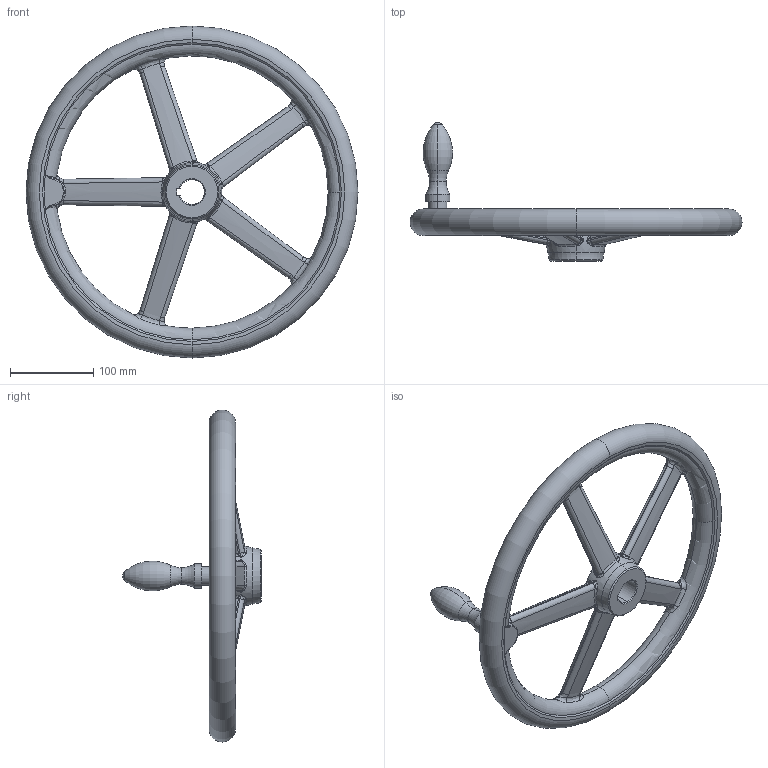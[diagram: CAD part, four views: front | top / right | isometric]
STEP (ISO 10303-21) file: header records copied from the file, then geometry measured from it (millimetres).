
FILE_DESCRIPTION (( 'STEP AP203' ), '1' );
FILE_NAME ('din950_d3_400x30.step', '2010-03-23T10:11:08', ( '_' ), ( '_' ), 'SwSTEP 2.0', 'SolidWorks 2010', '' );
FILE_SCHEMA (( 'CONFIG_CONTROL_DESIGN' ));
Length unit declared in the file: millimetre
Products named in the file (1): din950_d3_400x30
Bounding box: 400 x 167 x 400 mm (x, y, z)
Volume: 1457224.7 mm3; surface area: 198511.8 mm2
Topology: 1 solids, 1 shells, 267 faces, 659 edges, 345 vertices
Faces by surface type: bspline 196, torus 24, plane 18, cone 18, cylinder 9, sphere 2
Entity records: 59768 total; most frequent: CARTESIAN_POINT 54875, ORIENTED_EDGE 1230, EDGE_CURVE 615, DIRECTION 606, B_SPLINE_CURVE_WITH_KNOTS 368, VERTEX_POINT 345, AXIS2_PLACEMENT_3D 287, EDGE_LOOP 274
